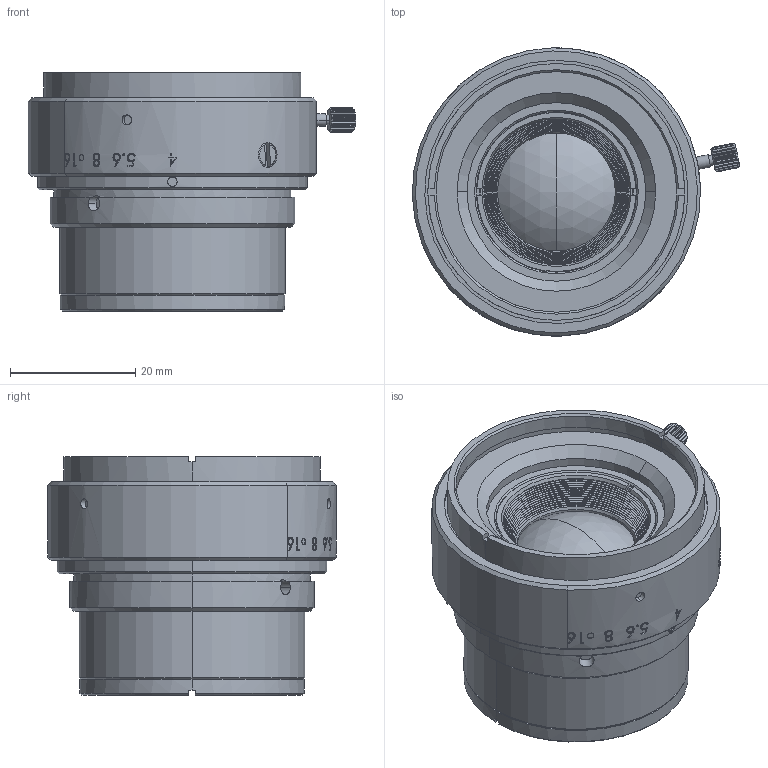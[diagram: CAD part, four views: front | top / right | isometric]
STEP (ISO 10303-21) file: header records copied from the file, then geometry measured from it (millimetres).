
FILE_DESCRIPTION (( 'STEP AP203' ), '1' );
FILE_NAME ('A24263_ML-4040-43M39.STEP', '2024-04-22T08:42:32', ( '' ), ( '' ), 'SwSTEP 2.0', 'SolidWorks 2023', '' );
FILE_SCHEMA (( 'CONFIG_CONTROL_DESIGN' ));
Length unit declared in the file: millimetre
Products named in the file (1): A24263_ML-4040-43M39
Bounding box: 52.24 x 46 x 38 mm (x, y, z)
Volume: 39053.2 mm3; surface area: 10194.1 mm2
Topology: 1 solids, 1 shells, 539 faces, 1393 edges, 901 vertices
Faces by surface type: cylinder 179, plane 135, bspline 122, cone 99, sphere 4
Entity records: 28595 total; most frequent: CARTESIAN_POINT 16760, ORIENTED_EDGE 2786, DIRECTION 1886, EDGE_CURVE 1393, VERTEX_POINT 901, AXIS2_PLACEMENT_3D 737, B_SPLINE_CURVE_WITH_KNOTS 662, EDGE_LOOP 584
